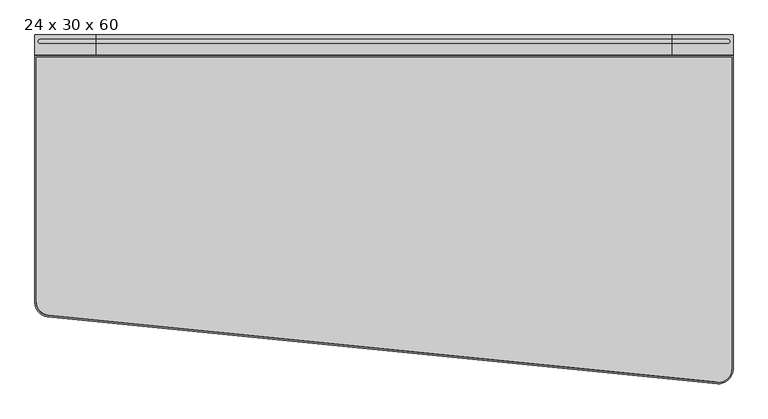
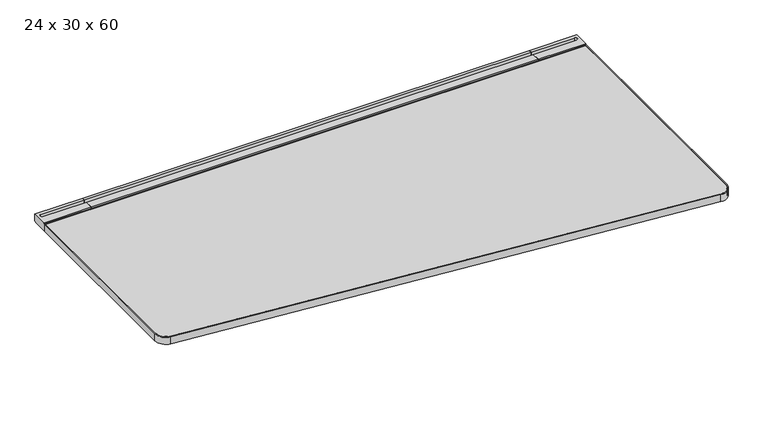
"""IFC4 building model written with IfcOpenShell, lengths in millimetres: furniture geometry, Steelcase - C Scape - Desking - Right Hand Tapered : 24 x 30 x 60."""

from ifc_helpers import new_model, si_unit, point, frame, frame_2d, origin, place, context, project, spatial, polyline, circle_curve, trimmed, segment, composite_curve, outline, extrude, faceted_brep, source, transform, mapped, element, save
from ifc_brep_helpers import plane_surface, cylinder_surface, revolved_surface, advanced_brep


def furniture_24_x_30_x_60_dbd468c7(model_context):
    return source(origin(), model_context, "Body", "SolidModel", [
        advanced_brep(
        [(1389.3927124, -45.3135132, 703.3768), (1389.3927124, -45.3135132, 722.4268341), (1389.3927124, -42.7750923, 722.4268341), (1389.3927124, -42.7750923, 725.932), (1389.3927124, -19.3290527, 725.932), (1389.3927124, -19.3290527, 713.486), (1389.3927124, -8.5111084, 713.486), (1389.3927124, -8.5111084, 725.932), (1389.3927124, 0.0, 725.932), (1389.3927124, 0.0, 705.1038636), (1389.3927124, -3.2278472, 705.1038636), (1389.3927124, -4.0331902, 703.3768), (1522.4125, -45.3135132, 703.3768), (1522.4125, -4.0331902, 703.3768), (1522.4125, -3.2278472, 705.1038636), (1522.4125, 0.0, 705.1038636), (1522.4125, 0.0, 725.932), (1522.4125, -42.7750923, 725.932), (1522.4125, -42.7750923, 722.4268341), (1522.4125, -45.3135132, 722.4268341), (1510.6504272, -8.5111084, 725.932), (1510.6504272, -19.3290527, 725.932), (1510.6504272, -19.3290527, 713.486), (1510.6504272, -8.5111084, 713.486)],
        [
            (0, 1),
            (1, 2),
            (2, 3),
            (3, 4),
            (4, 5),
            (5, 6),
            (6, 7),
            (7, 8),
            (8, 9),
            (9, 10),
            (10, 11),
            (11, 0),
            (12, 13),
            (13, 14),
            (14, 15),
            (15, 16),
            (16, 17),
            (17, 18),
            (18, 19),
            (19, 12),
            (11, 13),
            (12, 0),
            (10, 14),
            (9, 15),
            (8, 16),
            (7, 20),
            (20, 21, circle_curve(frame((1510.6504272, -13.9200806, 725.932), z_axis=(0.0, 0.0, -1.0), x_axis=(-1.0, 0.0, 0.0)), 5.4089722)),
            (21, 4),
            (3, 17),
            (2, 18),
            (1, 19),
            (5, 22),
            (22, 23, circle_curve(frame((1510.6504272, -13.9200806, 713.486), z_axis=(0.0, 0.0, 1.0), x_axis=(-1.0, 0.0, 0.0)), 5.4089722)),
            (23, 6),
            (23, 20),
            (22, 21),
        ],
        [
            plane_surface(frame((1389.3927124, -45.3135132, 703.3768), z_axis=(-1.0, 0.0, 0.0), x_axis=(0.0, 1.0, 0.0))),
            plane_surface(frame((1522.4125, -45.3135132, 703.3768), z_axis=(1.0, 0.0, 0.0), x_axis=(0.0, -1.0, 0.0))),
            plane_surface(frame((1389.3927124, -45.3135132, 703.3768), z_axis=(0.0, 0.0, -1.0), x_axis=(1.0, 0.0, 0.0))),
            plane_surface(frame((1389.3927124, -4.0331902, 703.3768), z_axis=(0.0, 0.9063077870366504, -0.4226182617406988), x_axis=(1.0, 0.0, 0.0))),
            plane_surface(frame((1389.3927124, -3.2278472, 705.1038636), z_axis=(0.0, 0.0, -1.0), x_axis=(1.0, 0.0, 0.0))),
            plane_surface(frame((1389.3927124, 0.0, 705.1038636), z_axis=(0.0, 1.0, 0.0), x_axis=(1.0, 0.0, 0.0))),
            plane_surface(frame((1389.3927124, 0.0, 725.932), z_axis=(0.0, 0.0, 1.0), x_axis=(1.0, 0.0, 0.0))),
            plane_surface(frame((1389.3927124, -42.7750923, 725.932), z_axis=(0.0, -1.0, 0.0), x_axis=(1.0, 0.0, 0.0))),
            plane_surface(frame((1389.3927124, -42.7750923, 722.4268341), z_axis=(0.0, 0.0, 1.0), x_axis=(1.0, 0.0, 0.0))),
            plane_surface(frame((1389.3927124, -45.3135132, 722.4268341), z_axis=(0.0, -1.0, 0.0), x_axis=(1.0, 0.0, 0.0))),
            plane_surface(frame((1510.6504272, -8.5111084, 713.486), z_axis=(0.0, 0.0, 1.0), x_axis=(-1.0, 0.0, 0.0))),
            plane_surface(frame((1389.3927124, -8.5111084, 731.2180541), z_axis=(0.0, -1.0, 0.0), x_axis=(0.0, 0.0, -1.0))),
            revolved_surface(polyline([(1505.2414549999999, -13.9200806, 725.932), (1505.2414549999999, -13.9200806, 713.486)]), (1510.6504272, -13.9200806, 713.486), (0.0, 0.0, 1.0)),
            plane_surface(frame((1510.6504272, -19.3290527, 731.2180541), z_axis=(0.0, 1.0, 0.0), x_axis=(0.0, 0.0, -1.0))),
        ],
        [
            (0, [[1, 2, 3, 4, 5, 6, 7, 8, 9, 10, 11, 12]]),
            (1, [[13, 14, 15, 16, 17, 18, 19, 20]]),
            (2, [[21, -13, 22, -12]]),
            (3, [[23, -14, -21, -11]]),
            (4, [[24, -15, -23, -10]]),
            (5, [[25, -16, -24, -9]]),
            (6, [[-25, -8, 26, 27, 28, -4, 29, -17]]),
            (7, [[30, -18, -29, -3]]),
            (8, [[31, -19, -30, -2]]),
            (9, [[-22, -20, -31, -1]]),
            (10, [[-6, 32, 33, 34]]),
            (11, [[35, -26, -7, -34]]),
            (12, [[36, -27, -35, -33]]),
            (13, [[-5, -28, -36, -32]]),
        ],
    ),
        faceted_brep([(1503.3617368, -565.0752923, 700.7093833), (1503.3617368, -565.0752923, 703.3768), (1389.3927124, -565.0752923, 703.3768), (1389.3927124, -565.0752923, 679.3263935), (1405.0268699, -565.0752923, 679.3263935), (1407.6474121, -565.0752923, 693.4200291), (1489.0866272, -565.0752923, 693.4200291), (1503.3617368, -4.0331902, 700.7093833), (1489.0866272, -4.0331902, 693.4200291), (1407.6474121, -4.0331902, 693.4200291), (1395.7411653, -4.0331902, 629.3866), (1389.3927124, -4.0331902, 629.3866), (1389.3927124, -4.0331902, 703.3768), (1503.3617368, -4.0331902, 703.3768), (1402.8615949, -376.5599397, 667.6812472), (1395.7411653, -364.1172546, 629.3866), (1389.3927124, -364.1172546, 629.3866), (1389.3927124, -376.5599397, 667.6812472)], [[[0, 1, 2, 3, 4, 5, 6]], [[7, 8, 9, 10, 11, 12, 13]], [[6, 8, 7, 0]], [[5, 9, 8, 6]], [[9, 5, 4, 14, 15, 10]], [[10, 15, 16, 11]], [[11, 16, 17, 3, 2, 12]], [[1, 13, 12, 2]], [[0, 7, 13, 1]], [[14, 4, 3, 17]], [[17, 16, 15, 14]]]),
        extrude(outline(composite_curve([segment(polyline([(-293.5216187, 657.3775839), (-559.0022133, 680.1371551)]), True, "CONTINUOUS"), segment(trimmed(circle_curve(frame_2d((-558.7581271, 682.9843154)), 2.8576039), [point((-559.0022133, 680.1371551))], [point((-561.5383043, 682.3236226))], False, "CARTESIAN"), True, "CONTINUOUS"), segment(polyline([(-561.5383043, 682.3236226), (-566.0887542, 701.4717905), (-557.8334441, 701.4717905), (-557.8334441, 703.3768), (-442.6683806, 703.3768), (-442.6683806, 696.3917953), (-318.2108611, 696.3917953), (-318.2108611, 703.3768), (-293.5216187, 703.3768), (-293.5216187, 657.3775839)]), True, "CONTINUOUS")], self_intersect=False)), frame((725.424, 0.0, 0.0), z_axis=(1.0, 0.0, 0.0), x_axis=(0.0, 1.0, 0.0)), (0.0, 0.0, 1.0), 73.152),
        advanced_brep(
        [(134.6072876, -45.3135132, 703.3768), (134.6072876, -4.0331902, 703.3768), (134.6072876, -3.2278472, 705.1038636), (134.6072876, 0.0, 705.1038636), (134.6072876, 0.0, 725.932), (134.6072876, -8.5111084, 725.932), (134.6072876, -8.5111084, 713.486), (134.6072876, -19.3290527, 713.486), (134.6072876, -19.3290527, 725.932), (134.6072876, -42.7750923, 725.932), (134.6072876, -42.7750923, 722.4268341), (134.6072876, -45.3135132, 722.4268341), (1.5875, -45.3135132, 703.3768), (1.5875, -45.3135132, 722.4268341), (1.5875, -42.7750923, 722.4268341), (1.5875, -42.7750923, 725.932), (1.5875, 0.0, 725.932), (1.5875, 0.0, 705.1038636), (1.5875, -3.2278472, 705.1038636), (1.5875, -4.0331902, 703.3768), (13.3495728, -19.3290527, 725.932), (13.3495728, -8.5111084, 725.932), (13.3495728, -8.5111084, 713.486), (13.3495728, -19.3290527, 713.486)],
        [
            (0, 1),
            (1, 2),
            (2, 3),
            (3, 4),
            (4, 5),
            (5, 6),
            (6, 7),
            (7, 8),
            (8, 9),
            (9, 10),
            (10, 11),
            (11, 0),
            (12, 13),
            (13, 14),
            (14, 15),
            (15, 16),
            (16, 17),
            (17, 18),
            (18, 19),
            (19, 12),
            (0, 12),
            (19, 1),
            (18, 2),
            (17, 3),
            (16, 4),
            (15, 9),
            (8, 20),
            (20, 21, circle_curve(frame((13.3495728, -13.9200806, 725.932), z_axis=(0.0, 0.0, -1.0), x_axis=(1.0, 0.0, 0.0)), 5.4089722)),
            (21, 5),
            (14, 10),
            (13, 11),
            (6, 22),
            (22, 23, circle_curve(frame((13.3495728, -13.9200806, 713.486), z_axis=(0.0, 0.0, 1.0), x_axis=(1.0, 0.0, 0.0)), 5.4089722)),
            (23, 7),
            (21, 22),
            (20, 23),
        ],
        [
            plane_surface(frame((134.6072876, -45.3135132, 703.3768), z_axis=(1.0, 0.0, 0.0), x_axis=(0.0, 1.0, 0.0))),
            plane_surface(frame((1.5875, -45.3135132, 703.3768), z_axis=(-1.0, 0.0, 0.0), x_axis=(0.0, -1.0, 0.0))),
            plane_surface(frame((134.6072876, -45.3135132, 703.3768), z_axis=(0.0, 0.0, -1.0), x_axis=(-1.0, 0.0, 0.0))),
            plane_surface(frame((134.6072876, -4.0331902, 703.3768), z_axis=(0.0, 0.9063077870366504, -0.4226182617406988), x_axis=(-1.0, 0.0, 0.0))),
            plane_surface(frame((134.6072876, -3.2278472, 705.1038636), z_axis=(0.0, 0.0, -1.0), x_axis=(-1.0, 0.0, 0.0))),
            plane_surface(frame((134.6072876, 0.0, 705.1038636), z_axis=(0.0, 1.0, 0.0), x_axis=(-1.0, 0.0, 0.0))),
            plane_surface(frame((134.6072876, 0.0, 725.932), z_axis=(0.0, 0.0, 1.0), x_axis=(-1.0, 0.0, 0.0))),
            plane_surface(frame((134.6072876, -42.7750923, 725.932), z_axis=(0.0, -1.0, 0.0), x_axis=(-1.0, 0.0, 0.0))),
            plane_surface(frame((134.6072876, -42.7750923, 722.4268341), z_axis=(0.0, 0.0, 1.0), x_axis=(-1.0, 0.0, 0.0))),
            plane_surface(frame((134.6072876, -45.3135132, 722.4268341), z_axis=(0.0, -1.0, 0.0), x_axis=(-1.0, 0.0, 0.0))),
            plane_surface(frame((13.3495728, -8.5111084, 713.486), z_axis=(0.0, 0.0, 1.0), x_axis=(1.0, 0.0, 0.0))),
            plane_surface(frame((134.6072876, -8.5111084, 731.2180541), z_axis=(0.0, -1.0, 0.0), x_axis=(0.0, 0.0, -1.0))),
            revolved_surface(polyline([(18.758545, -13.9200806, 725.932), (18.758545, -13.9200806, 713.486)]), (13.3495728, -13.9200806, 713.486), (0.0, 0.0, 1.0)),
            plane_surface(frame((13.3495728, -19.3290527, 731.2180541), z_axis=(0.0, 1.0, 0.0), x_axis=(0.0, 0.0, -1.0))),
        ],
        [
            (0, [[1, 2, 3, 4, 5, 6, 7, 8, 9, 10, 11, 12]]),
            (1, [[13, 14, 15, 16, 17, 18, 19, 20]]),
            (2, [[-1, 21, -20, 22]]),
            (3, [[-2, -22, -19, 23]]),
            (4, [[-3, -23, -18, 24]]),
            (5, [[-4, -24, -17, 25]]),
            (6, [[-16, 26, -9, 27, 28, 29, -5, -25]]),
            (7, [[-10, -26, -15, 30]]),
            (8, [[-11, -30, -14, 31]]),
            (9, [[-12, -31, -13, -21]]),
            (10, [[32, 33, 34, -7]]),
            (11, [[-32, -6, -29, 35]]),
            (12, [[-33, -35, -28, 36]]),
            (13, [[-34, -36, -27, -8]]),
        ],
    ),
        faceted_brep([(20.6382632, -565.0752923, 700.7093833), (34.9133728, -565.0752923, 693.4200291), (116.3525879, -565.0752923, 693.4200291), (118.9731301, -565.0752923, 679.3263935), (134.6072876, -565.0752923, 679.3263935), (134.6072876, -565.0752923, 703.3768), (20.6382632, -565.0752923, 703.3768), (20.6382632, -4.0331902, 700.7093833), (20.6382632, -4.0331902, 703.3768), (134.6072876, -4.0331902, 703.3768), (134.6072876, -4.0331902, 629.3866), (128.2588347, -4.0331902, 629.3866), (116.3525879, -4.0331902, 693.4200291), (34.9133728, -4.0331902, 693.4200291), (128.2588347, -364.1172546, 629.3866), (121.1384051, -376.5599397, 667.6812472), (134.6072876, -364.1172546, 629.3866), (134.6072876, -376.5599397, 667.6812472)], [[[0, 1, 2, 3, 4, 5, 6]], [[7, 8, 9, 10, 11, 12, 13]], [[1, 0, 7, 13]], [[2, 1, 13, 12]], [[12, 11, 14, 15, 3, 2]], [[11, 10, 16, 14]], [[10, 9, 5, 4, 17, 16]], [[6, 5, 9, 8]], [[0, 6, 8, 7]], [[15, 17, 4, 3]], [[17, 15, 14, 16]]]),
        extrude(outline(polyline([(-8.5111084, 725.932), (0.0, 725.932), (0.0, 705.1038636), (-3.2278472, 705.1038636), (-4.0331902, 703.3768), (-45.3135132, 703.3768), (-45.3135132, 722.4268341), (-42.7750923, 722.4268341), (-42.7750923, 725.932), (-19.3290527, 725.932), (-19.3290527, 713.486), (-8.5111084, 713.486), (-8.5111084, 725.932)])), frame((134.6072876, 0.0, 0.0), z_axis=(1.0, 0.0, 0.0), x_axis=(0.0, 1.0, 0.0)), (0.0, 0.0, 1.0), 1254.7854248),
        extrude(outline(polyline([(134.6072876, -293.5216187), (134.6072876, -4.0331902), (1389.3927124, -4.0331902), (1389.3927124, -293.5216187), (134.6072876, -293.5216187)])), frame((0.0, 0.0, 629.3866), z_axis=(0.0, 0.0, 1.0), x_axis=(1.0, 0.0, 0.0)), (0.0, 0.0, 1.0), 73.9902),
        extrude(outline(composite_curve([segment(polyline([(4.6355, -48.3660689), (1519.3645, -48.3660689), (1519.3645, -727.4584074)]), True, "CONTINUOUS"), segment(trimmed(circle_curve(frame_2d((1489.9399152, -727.4584074)), 29.4245848), [point((1519.3645, -727.4584074))], [point((1482.7992261, -756.0034025))], False, "CARTESIAN"), True, "CONTINUOUS"), segment(polyline([(1482.7992261, -756.0034025), (32.0559121, -610.6253514)]), True, "CONTINUOUS"), segment(trimmed(circle_curve(frame_2d((35.0928094, -580.3198247)), 30.4573094), [point((32.0559121, -610.6253514))], [point((4.6355, -580.3198247))], False, "CARTESIAN"), True, "CONTINUOUS"), segment(polyline([(4.6355, -580.3198247), (4.6355, -48.3660689)]), True, "CONTINUOUS")], self_intersect=False)), frame((0.0, 0.0, 703.3768), z_axis=(0.0, 0.0, 1.0), x_axis=(1.0, 0.0, 0.0)), (0.0, 0.0, 1.0), 20.5232),
        advanced_brep(
        [(1522.4125, -45.3150923, 703.3768), (1522.4125, -45.3150923, 723.9), (1522.4125, -727.9415979, 723.9), (1522.4125, -727.9415979, 703.3768), (1519.3615234, -48.3660689, 723.9), (1519.3615234, -48.3660689, 703.3768), (1519.3615234, -727.9415979, 703.3768), (1519.3615234, -727.9415979, 723.9), (1487.6527611, -759.548622, 703.3768), (1487.6527611, -759.548622, 723.9), (1487.9419782, -756.5113845, 723.9), (1487.9419782, -756.5113845, 703.3768), (28.8741289, -613.3822243, 723.9), (28.8741289, -613.3822243, 703.3768), (29.1783069, -610.3464487, 703.3768), (29.1783069, -610.3464487, 723.9), (1.5875, -583.3738283, 723.9), (1.5875, -45.3150923, 723.9), (4.6384766, -583.3738283, 723.9), (4.6384766, -48.3660689, 723.9), (1.5875, -583.3738283, 703.3768), (1.5875, -45.3150923, 703.3768), (4.6384766, -583.3738283, 703.3768), (4.6384766, -48.3660689, 703.3768)],
        [
            (0, 1),
            (1, 2),
            (2, 3),
            (3, 0),
            (4, 5),
            (5, 6),
            (6, 7),
            (7, 4),
            (8, 3, circle_curve(frame((1490.6625, -727.9415979, 703.3768), z_axis=(0.0, 0.0, 1.0), x_axis=(1.0, 0.0, 0.0)), 31.75)),
            (2, 9, circle_curve(frame((1490.6625, -727.9415979, 723.9), z_axis=(0.0, 0.0, -1.0), x_axis=(1.0, 0.0, 0.0)), 31.75)),
            (9, 8),
            (10, 7, circle_curve(frame((1490.6625, -727.9415979, 723.9), z_axis=(0.0, 0.0, 1.0), x_axis=(1.0, 0.0, 0.0)), 28.6990234)),
            (6, 11, circle_curve(frame((1490.6625, -727.9415979, 703.3768), z_axis=(0.0, 0.0, -1.0), x_axis=(1.0, 0.0, 0.0)), 28.6990234)),
            (11, 10),
            (9, 12),
            (12, 13),
            (13, 8),
            (11, 14),
            (14, 15),
            (15, 10),
            (16, 12, circle_curve(frame((31.7316405, -583.3738283, 723.9), z_axis=(0.0, 0.0, 1.0), x_axis=(-0.09479492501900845, -0.9954968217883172, 0.0)), 30.1441405)),
            (1, 17),
            (17, 16),
            (15, 18, circle_curve(frame((31.7316405, -583.3738283, 723.9), z_axis=(0.0, 0.0, -1.0), x_axis=(-0.09479492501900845, -0.9954968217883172, 0.0)), 27.0931639)),
            (18, 19),
            (19, 4),
            (20, 13, circle_curve(frame((31.7316405, -583.3738283, 703.3768), z_axis=(0.0, 0.0, 1.0), x_axis=(-0.09479492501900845, -0.9954968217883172, 0.0)), 30.1441405)),
            (16, 20),
            (20, 21),
            (21, 0),
            (22, 14, circle_curve(frame((31.7316405, -583.3738283, 703.3768), z_axis=(0.0, 0.0, 1.0), x_axis=(-0.09479492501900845, -0.9954968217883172, 0.0)), 27.0931639)),
            (5, 23),
            (23, 22),
            (22, 18),
            (17, 21),
            (23, 19),
        ],
        [
            plane_surface(frame((1522.4125, -45.3150923, 723.9), z_axis=(1.0, 0.0, 0.0), x_axis=(0.0, -1.0, 0.0))),
            plane_surface(frame((1519.3615234, -48.3660689, 703.3768), z_axis=(-1.0, 0.0, 0.0), x_axis=(0.0, -1.0, 0.0))),
            cylinder_surface(frame((1490.6625, -727.9415979, 0.0), z_axis=(0.0, 0.0, -1.0), x_axis=(1.0, 0.0, 0.0)), 31.75),
            revolved_surface(polyline([(1519.3615234, -727.9415979, 703.3768), (1519.3615234, -727.9415979, 723.9)]), (1490.6625, -727.9415979, 0.0), (0.0, 0.0, -1.0)),
            plane_surface(frame((1487.6527611, -759.548622, 723.9), z_axis=(-0.09969857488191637, -0.9950176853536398, 0.0), x_axis=(-0.9950176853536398, 0.09969857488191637, 0.0))),
            plane_surface(frame((1487.9419817, -756.5113477, 703.3768), z_axis=(0.0996985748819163, 0.9950176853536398, 0.0), x_axis=(-0.9950176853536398, 0.0996985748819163, 0.0))),
            plane_surface(frame((31.7316405, -583.3738283, 723.9), z_axis=(0.0, 0.0, 1.0), x_axis=(-0.09479492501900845, -0.9954968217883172, 0.0))),
            cylinder_surface(frame((31.7316405, -583.3738283, 0.0), z_axis=(0.0, 0.0, -1.0), x_axis=(-0.09479492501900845, -0.9954968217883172, 0.0)), 30.1441405),
            plane_surface(frame((31.7316405, -583.3738283, 703.3768), z_axis=(0.0, 0.0, -1.0), x_axis=(-0.09479492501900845, -0.9954968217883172, 0.0))),
            revolved_surface(polyline([(29.163346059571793, -610.34498685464, 703.3768), (29.163346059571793, -610.34498685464, 723.9)]), (31.7316405, -583.3738283, 0.0), (0.0, 0.0, -1.0)),
            plane_surface(frame((1.5875, -583.3738283, 723.9), z_axis=(-1.0, 0.0, 0.0), x_axis=(0.0, 1.0, 0.0))),
            plane_surface(frame((4.6384766, -583.3738283, 703.3768), z_axis=(1.0, 0.0, 0.0), x_axis=(0.0, 1.0, 0.0))),
            plane_surface(frame((1.5875, -45.3150923, 723.9), z_axis=(0.0, 1.0, 0.0), x_axis=(1.0, 0.0, 0.0))),
            plane_surface(frame((4.6384766, -48.3660689, 703.3768), z_axis=(0.0, -1.0, 0.0), x_axis=(1.0, 0.0, 0.0))),
        ],
        [
            (0, [[1, 2, 3, 4]]),
            (1, [[5, 6, 7, 8]]),
            (2, [[9, -3, 10, 11]]),
            (3, [[12, -7, 13, 14]]),
            (4, [[-11, 15, 16, 17]]),
            (5, [[-14, 18, 19, 20]]),
            (6, [[21, -15, -10, -2, 22, 23], [-8, -12, -20, 24, 25, 26]]),
            (7, [[27, -16, -21, 28]]),
            (8, [[-4, -9, -17, -27, 29, 30], [31, -18, -13, -6, 32, 33]]),
            (9, [[-24, -19, -31, 34]]),
            (10, [[-28, -23, 35, -29]]),
            (11, [[-34, -33, 36, -25]]),
            (12, [[-35, -22, -1, -30]]),
            (13, [[-36, -32, -5, -26]]),
        ],
    ),
    ])


if __name__ == "__main__":
    model = new_model("IFC4")
    model_context = context("Model", 3, world=origin())
    ifc_project = project(units=[si_unit("LENGTHUNIT", "METRE", prefix="MILLI")], contexts=[model_context])
    site = spatial("IfcSite", under=ifc_project)
    building = spatial("IfcBuilding", under=site)
    placement = place(None, origin())
    furniture_24_x_30_x_60_shape = furniture_24_x_30_x_60_dbd468c7(model_context)
    element("IfcFurniture", 1, ObjectType="Steelcase - C Scape - Desking - Right Hand Tapered : 24 x 30 x 60", at=placement, inside=building, context=model_context, shape_type="MappedRepresentation", body=[
        mapped(furniture_24_x_30_x_60_shape, transform((0.0, 0.0, 0.0), x_axis=(1.0, 0.0, 0.0), y_axis=(0.0, 1.0, 0.0), z_axis=(0.0, 0.0, 1.0))),
    ])
    save(model, "model.ifc")
